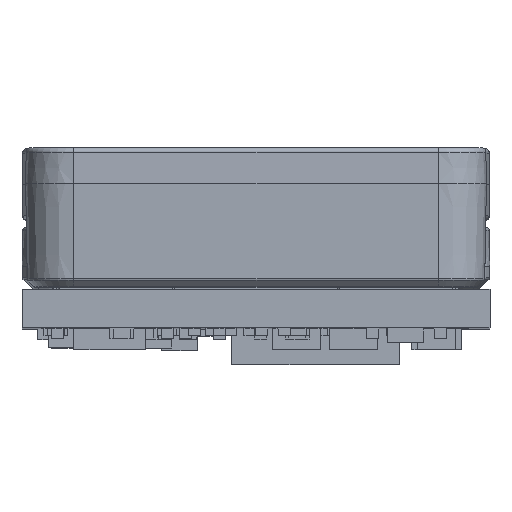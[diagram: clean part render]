
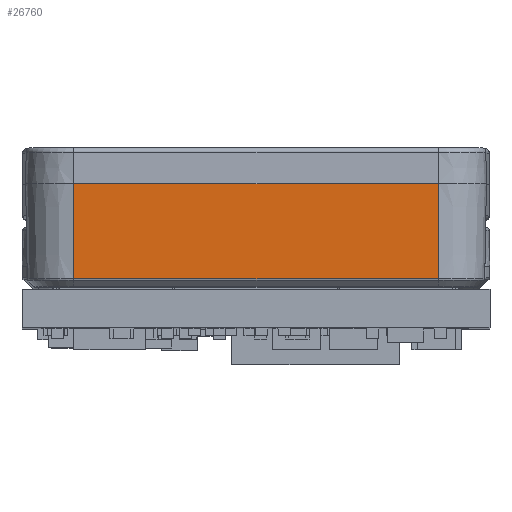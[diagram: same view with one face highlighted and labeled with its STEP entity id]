
A CAD part, top view. The second image highlights one B-rep face of the part: STEP entity #26760.
In plain terms, the highlighted planar face has unit normal (0, -0.018, 1).
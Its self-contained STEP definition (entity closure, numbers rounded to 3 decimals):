
#38 = ORIENTED_EDGE ( 'NONE', *, *, #54782, .T. ) ;
#2463 = VERTEX_POINT ( 'NONE', #52847 ) ;
#4980 = EDGE_CURVE ( 'NONE', #8049, #15692, #9321, .T. ) ;
#7045 = LINE ( 'NONE', #13953, #24927 ) ;
#7515 = CARTESIAN_POINT ( 'NONE',  ( 7.6, 0., 4.646 ) ) ;
#8049 = VERTEX_POINT ( 'NONE', #45124 ) ;
#8160 = LINE ( 'NONE', #7515, #67541 ) ;
#8440 = DIRECTION ( 'NONE',  ( -1., 0., 0. ) ) ;
#9321 = LINE ( 'NONE', #24067, #46124 ) ;
#10476 = AXIS2_PLACEMENT_3D ( 'NONE', #13128, #18823, #52309 ) ;
#13128 = CARTESIAN_POINT ( 'NONE',  ( 0., 0., 4.646 ) ) ;
#13953 = CARTESIAN_POINT ( 'NONE',  ( 0., 0., 4.646 ) ) ;
#15692 = VERTEX_POINT ( 'NONE', #62342 ) ;
#18823 = DIRECTION ( 'NONE',  ( 0., -0.017, 1. ) ) ;
#18944 = EDGE_CURVE ( 'NONE', #61407, #2463, #8160, .T. ) ;
#24067 = CARTESIAN_POINT ( 'NONE',  ( -7.6, 0., 4.646 ) ) ;
#24927 = VECTOR ( 'NONE', #8440, 1000. ) ;
#26760 = ADVANCED_FACE ( 'NONE', ( #58497 ), #41786, .T. ) ;
#28889 = EDGE_CURVE ( 'NONE', #8049, #61407, #68688, .T. ) ;
#33307 = EDGE_LOOP ( 'NONE', ( #66462, #38728, #68046, #38 ) ) ;
#38728 = ORIENTED_EDGE ( 'NONE', *, *, #28889, .T. ) ;
#41786 = PLANE ( 'NONE',  #10476 ) ;
#45124 = CARTESIAN_POINT ( 'NONE',  ( -7.6, -3.974, 4.577 ) ) ;
#46124 = VECTOR ( 'NONE', #52510, 1000. ) ;
#52309 = DIRECTION ( 'NONE',  ( 0., 1., 0.017 ) ) ;
#52510 = DIRECTION ( 'NONE',  ( 0., 1., 0.017 ) ) ;
#52847 = CARTESIAN_POINT ( 'NONE',  ( 7.6, 0., 4.646 ) ) ;
#53336 = VECTOR ( 'NONE', #63168, 1000. ) ;
#54782 = EDGE_CURVE ( 'NONE', #2463, #15692, #7045, .T. ) ;
#58139 = CARTESIAN_POINT ( 'NONE',  ( 0., -3.974, 4.577 ) ) ;
#58497 = FACE_OUTER_BOUND ( 'NONE', #33307, .T. ) ;
#59637 = CARTESIAN_POINT ( 'NONE',  ( 7.6, -3.974, 4.577 ) ) ;
#61407 = VERTEX_POINT ( 'NONE', #59637 ) ;
#62342 = CARTESIAN_POINT ( 'NONE',  ( -7.6, 0., 4.646 ) ) ;
#63168 = DIRECTION ( 'NONE',  ( 1., 0., 0. ) ) ;
#66462 = ORIENTED_EDGE ( 'NONE', *, *, #4980, .F. ) ;
#67541 = VECTOR ( 'NONE', #70357, 1000. ) ;
#68046 = ORIENTED_EDGE ( 'NONE', *, *, #18944, .T. ) ;
#68688 = LINE ( 'NONE', #58139, #53336 ) ;
#70357 = DIRECTION ( 'NONE',  ( 0., 1., 0.017 ) ) ;
